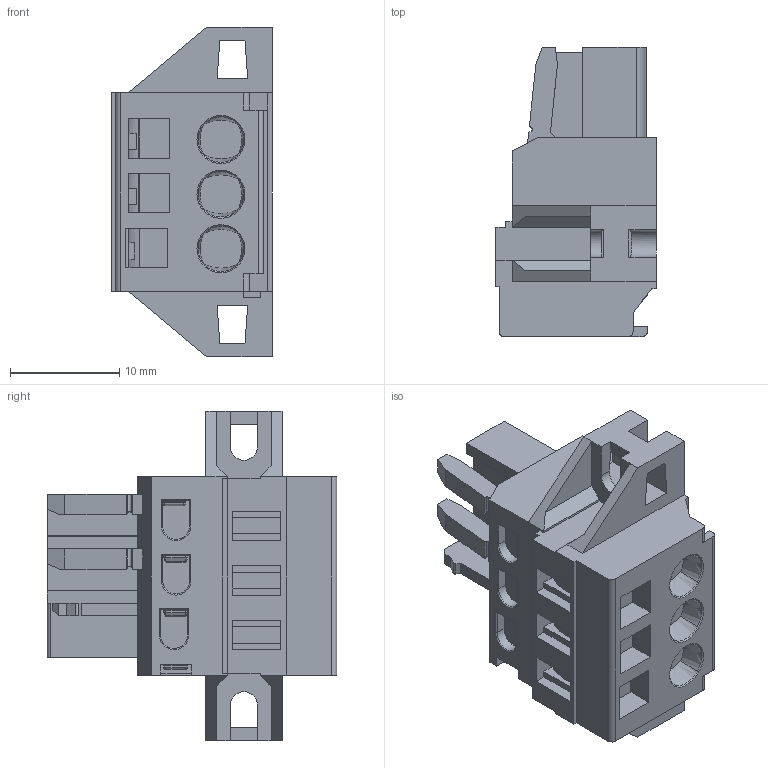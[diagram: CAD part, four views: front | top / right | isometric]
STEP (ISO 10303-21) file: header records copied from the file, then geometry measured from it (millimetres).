
FILE_DESCRIPTION((''),'2;1');
FILE_NAME('HI0301X20000G','2019-05-06T',('zhenbing.lai'),(''),'CREO PARAMETRIC BY PTC INC, 2016260','CREO PARAMETRIC BY PTC INC, 2016260','');
FILE_SCHEMA(('CONFIG_CONTROL_DESIGN'));
Length unit declared in the file: millimetre
Products named in the file (1): HI0301X20000G
Bounding box: 14.7 x 26.5 x 30.2 mm (x, y, z)
Volume: 5197.9 mm3; surface area: 3454.7 mm2
Topology: 1 solids, 3 shells, 446 faces, 1216 edges, 786 vertices
Faces by surface type: plane 296, cylinder 99, cone 32, bspline 14, torus 3, sphere 2
Entity records: 14700 total; most frequent: CARTESIAN_POINT 3373, ORIENTED_EDGE 2428, DIRECTION 2216, EDGE_CURVE 1214, VECTOR 938, LINE 938, VERTEX_POINT 786, AXIS2_PLACEMENT_3D 639
